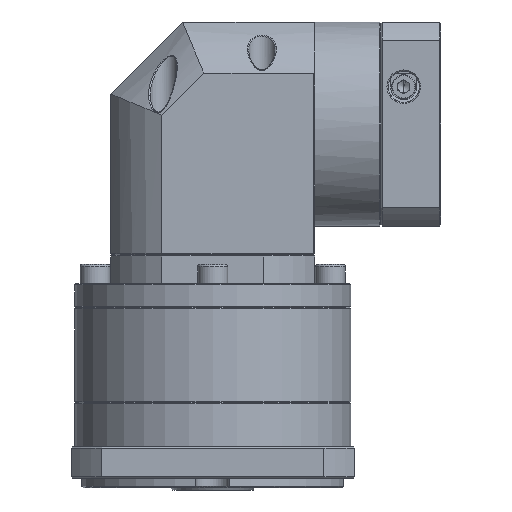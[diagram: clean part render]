
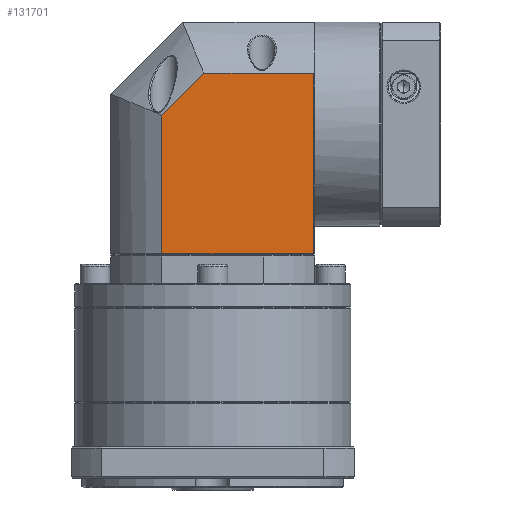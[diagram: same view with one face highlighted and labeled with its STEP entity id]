
A CAD part, front view. The second image highlights one B-rep face of the part: STEP entity #131701.
In plain terms, the highlighted planar face has unit normal (0, -1, 0).
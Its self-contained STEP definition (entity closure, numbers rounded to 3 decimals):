
#1015 = ORIENTED_EDGE ( 'NONE', *, *, #26294, .F. ) ;
#4199 = CARTESIAN_POINT ( 'NONE',  ( 4.435, -44.456, 297.715 ) ) ;
#10228 = CARTESIAN_POINT ( 'NONE',  ( -59.278, -44.456, 319.002 ) ) ;
#10597 = EDGE_CURVE ( 'NONE', #35050, #134156, #66938, .T. ) ;
#16106 = DIRECTION ( 'NONE',  ( 0., 0., -1. ) ) ;
#22233 = EDGE_CURVE ( 'NONE', #131350, #43717, #55236, .T. ) ;
#26294 = EDGE_CURVE ( 'NONE', #35050, #131350, #115547, .T. ) ;
#30609 = CARTESIAN_POINT ( 'NONE',  ( 3.935, -44.456, 297.715 ) ) ;
#32798 = VECTOR ( 'NONE', #61136, 1000. ) ;
#32831 = VECTOR ( 'NONE', #56041, 1000. ) ;
#35050 = VERTEX_POINT ( 'NONE', #113697 ) ;
#35478 = VECTOR ( 'NONE', #128563, 1000. ) ;
#40427 = CARTESIAN_POINT ( 'NONE',  ( -59.278, -44.456, 280.185 ) ) ;
#43717 = VERTEX_POINT ( 'NONE', #47116 ) ;
#47116 = CARTESIAN_POINT ( 'NONE',  ( -41.748, -44.456, 297.715 ) ) ;
#50937 = LINE ( 'NONE', #76813, #78315 ) ;
#51704 = FACE_OUTER_BOUND ( 'NONE', #78976, .T. ) ;
#55236 = LINE ( 'NONE', #102906, #107061 ) ;
#56041 = DIRECTION ( 'NONE',  ( 1., 0., 0. ) ) ;
#59727 = EDGE_CURVE ( 'NONE', #43717, #133836, #66324, .T. ) ;
#60736 = ORIENTED_EDGE ( 'NONE', *, *, #133634, .F. ) ;
#61136 = DIRECTION ( 'NONE',  ( 0., 0., 1. ) ) ;
#66324 = LINE ( 'NONE', #4199, #35478 ) ;
#66938 = LINE ( 'NONE', #129944, #32831 ) ;
#73404 = DIRECTION ( 'NONE',  ( 0.707, 0., 0.707 ) ) ;
#76813 = CARTESIAN_POINT ( 'NONE',  ( 3.935, -44.456, 319.002 ) ) ;
#78315 = VECTOR ( 'NONE', #16106, 1000. ) ;
#78976 = EDGE_LOOP ( 'NONE', ( #98487, #60736, #79716, #103584, #1015 ) ) ;
#79716 = ORIENTED_EDGE ( 'NONE', *, *, #59727, .F. ) ;
#85452 = AXIS2_PLACEMENT_3D ( 'NONE', #116921, #117352, #98301 ) ;
#98301 = DIRECTION ( 'NONE',  ( -1., 0., 0. ) ) ;
#98487 = ORIENTED_EDGE ( 'NONE', *, *, #10597, .T. ) ;
#102906 = CARTESIAN_POINT ( 'NONE',  ( -59.278, -44.456, 280.185 ) ) ;
#103584 = ORIENTED_EDGE ( 'NONE', *, *, #22233, .F. ) ;
#106455 = PLANE ( 'NONE',  #85452 ) ;
#106651 = CARTESIAN_POINT ( 'NONE',  ( 3.935, -44.456, 222.502 ) ) ;
#107061 = VECTOR ( 'NONE', #73404, 1000. ) ;
#113697 = CARTESIAN_POINT ( 'NONE',  ( -59.278, -44.456, 222.502 ) ) ;
#115547 = LINE ( 'NONE', #10228, #32798 ) ;
#116921 = CARTESIAN_POINT ( 'NONE',  ( 4.435, -44.456, 319.002 ) ) ;
#117352 = DIRECTION ( 'NONE',  ( 0., 1., 0. ) ) ;
#128563 = DIRECTION ( 'NONE',  ( 1., 0., 0. ) ) ;
#129944 = CARTESIAN_POINT ( 'NONE',  ( 4.435, -44.456, 222.502 ) ) ;
#131350 = VERTEX_POINT ( 'NONE', #40427 ) ;
#131701 = ADVANCED_FACE ( 'NONE', ( #51704 ), #106455, .F. ) ;
#133634 = EDGE_CURVE ( 'NONE', #133836, #134156, #50937, .T. ) ;
#133836 = VERTEX_POINT ( 'NONE', #30609 ) ;
#134156 = VERTEX_POINT ( 'NONE', #106651 ) ;
